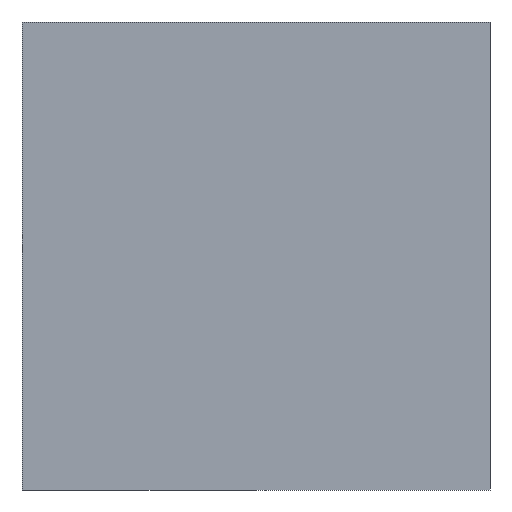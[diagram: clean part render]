
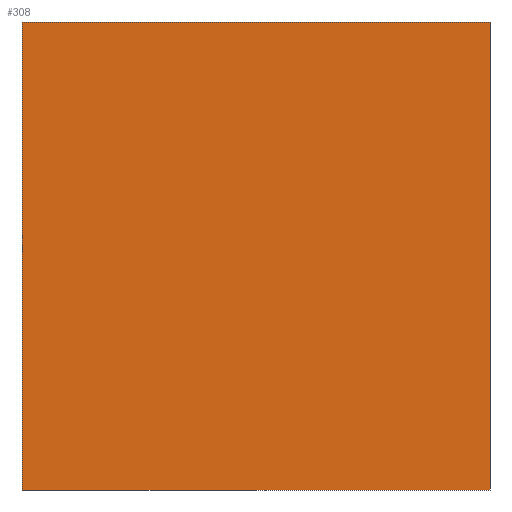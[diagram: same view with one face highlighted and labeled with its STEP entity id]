
A CAD part, left-side view. The second image highlights one B-rep face of the part: STEP entity #308.
In plain terms, the highlighted planar face has unit normal (-1, 0, 0).
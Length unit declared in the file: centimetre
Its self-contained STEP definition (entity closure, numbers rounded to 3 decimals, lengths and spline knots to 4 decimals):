
#5 = DIRECTION ( 'NONE',  ( 0., 0., -1. ) ) ;
#7 = CARTESIAN_POINT ( 'NONE',  ( 0., 1000., 1000. ) ) ;
#18 = LINE ( 'NONE', #87, #419 ) ;
#39 = LINE ( 'NONE', #143, #85 ) ;
#49 = EDGE_CURVE ( 'NONE', #71, #90, #18, .T. ) ;
#67 = CARTESIAN_POINT ( 'NONE',  ( 0., 1000., 1000. ) ) ;
#71 = VERTEX_POINT ( 'NONE', #166 ) ;
#73 = VECTOR ( 'NONE', #329, 100. ) ;
#80 = LINE ( 'NONE', #7, #412 ) ;
#85 = VECTOR ( 'NONE', #5, 100. ) ;
#87 = CARTESIAN_POINT ( 'NONE',  ( 0., 1000., 0. ) ) ;
#90 = VERTEX_POINT ( 'NONE', #255 ) ;
#94 = VERTEX_POINT ( 'NONE', #332 ) ;
#106 = PLANE ( 'NONE',  #132 ) ;
#132 = AXIS2_PLACEMENT_3D ( 'NONE', #341, #239, #306 ) ;
#133 = ORIENTED_EDGE ( 'NONE', *, *, #188, .T. ) ;
#143 = CARTESIAN_POINT ( 'NONE',  ( 0., 0., 1000. ) ) ;
#166 = CARTESIAN_POINT ( 'NONE',  ( 0., 1000., 0. ) ) ;
#177 = FACE_OUTER_BOUND ( 'NONE', #198, .T. ) ;
#188 = EDGE_CURVE ( 'NONE', #94, #71, #297, .T. ) ;
#189 = ORIENTED_EDGE ( 'NONE', *, *, #263, .F. ) ;
#198 = EDGE_LOOP ( 'NONE', ( #333, #189, #310, #133 ) ) ;
#215 = DIRECTION ( 'NONE',  ( 0., -1., 0. ) ) ;
#219 = VERTEX_POINT ( 'NONE', #241 ) ;
#235 = EDGE_CURVE ( 'NONE', #94, #219, #80, .T. ) ;
#239 = DIRECTION ( 'NONE',  ( 1., 0., 0. ) ) ;
#241 = CARTESIAN_POINT ( 'NONE',  ( 0., 0., 1000. ) ) ;
#255 = CARTESIAN_POINT ( 'NONE',  ( 0., 0., 0. ) ) ;
#263 = EDGE_CURVE ( 'NONE', #219, #90, #39, .T. ) ;
#267 = DIRECTION ( 'NONE',  ( 0., -1., 0. ) ) ;
#297 = LINE ( 'NONE', #67, #73 ) ;
#306 = DIRECTION ( 'NONE',  ( 0., 0., -1. ) ) ;
#308 = ADVANCED_FACE ( 'NONE', ( #177 ), #106, .F. ) ;
#310 = ORIENTED_EDGE ( 'NONE', *, *, #235, .F. ) ;
#329 = DIRECTION ( 'NONE',  ( 0., 0., -1. ) ) ;
#332 = CARTESIAN_POINT ( 'NONE',  ( 0., 1000., 1000. ) ) ;
#333 = ORIENTED_EDGE ( 'NONE', *, *, #49, .T. ) ;
#341 = CARTESIAN_POINT ( 'NONE',  ( 0., 1000., 1000. ) ) ;
#412 = VECTOR ( 'NONE', #267, 100. ) ;
#419 = VECTOR ( 'NONE', #215, 100. ) ;
